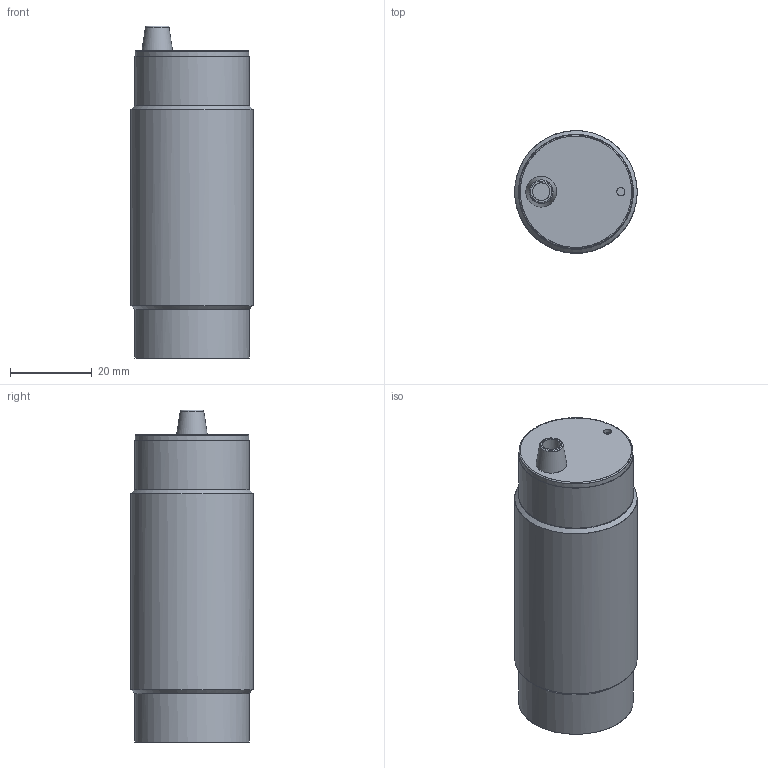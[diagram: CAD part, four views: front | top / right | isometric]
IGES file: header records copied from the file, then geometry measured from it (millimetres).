
Global section: file name: D:\dd\DSD-0306.igs; preprocessor: I-DEAS 3D IGES Translator 13; date: 20100121.130407; units: millimetre
Bounding box: 29.96 x 29.99 x 81.3 mm (x, y, z)
Surface area: 17117.1 mm2 (no closed solid volume)
Topology: 0 solids, 0 shells, 24 faces, 176 edges, 143 vertices
Faces by surface type: bspline 24
